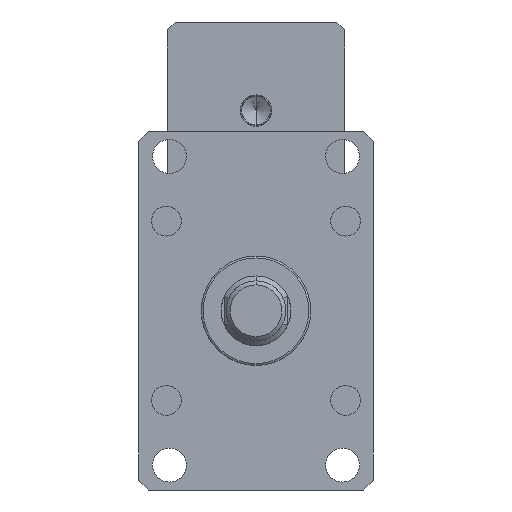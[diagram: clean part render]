
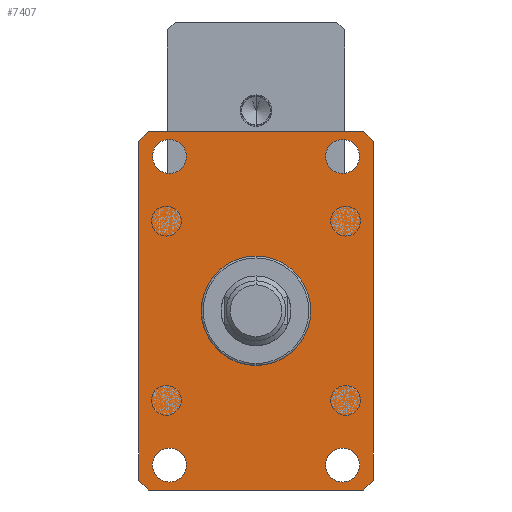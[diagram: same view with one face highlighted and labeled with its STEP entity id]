
A CAD part, front view. The second image highlights one B-rep face of the part: STEP entity #7407.
In plain terms, the highlighted planar face has unit normal (0, -1, 0).
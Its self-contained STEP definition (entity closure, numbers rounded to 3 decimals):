
#321 = CARTESIAN_POINT ( 'NONE',  ( -43.5, -55., -77.5 ) ) ;
#341 = DIRECTION ( 'NONE',  ( -0.707, 0., -0.707 ) ) ;
#351 = DIRECTION ( 'NONE',  ( 0.707, 0., 0.707 ) ) ;
#395 = DIRECTION ( 'NONE',  ( -1., 0., 0. ) ) ;
#535 = CARTESIAN_POINT ( 'NONE',  ( -43.5, -55., 77.5 ) ) ;
#645 = DIRECTION ( 'NONE',  ( 0., 0., 1. ) ) ;
#714 = DIRECTION ( 'NONE',  ( 0., 0., 1. ) ) ;
#838 = VERTEX_POINT ( 'NONE', #897 ) ;
#897 = CARTESIAN_POINT ( 'NONE',  ( -54., -55., -90. ) ) ;
#1011 = VECTOR ( 'NONE', #1719, 1000. ) ;
#1015 = ORIENTED_EDGE ( 'NONE', *, *, #8523, .T. ) ;
#1031 = EDGE_LOOP ( 'NONE', ( #2092, #10138 ) ) ;
#1140 = EDGE_CURVE ( 'NONE', #6532, #10853, #11142, .T. ) ;
#1181 = ORIENTED_EDGE ( 'NONE', *, *, #8317, .T. ) ;
#1294 = DIRECTION ( 'NONE',  ( 0., 0., 1. ) ) ;
#1336 = VERTEX_POINT ( 'NONE', #5708 ) ;
#1360 = DIRECTION ( 'NONE',  ( 0., 0., -1. ) ) ;
#1432 = CARTESIAN_POINT ( 'NONE',  ( 43.5, -55., -69. ) ) ;
#1519 = DIRECTION ( 'NONE',  ( 0., 0., -1. ) ) ;
#1523 = LINE ( 'NONE', #4280, #11560 ) ;
#1577 = VERTEX_POINT ( 'NONE', #10946 ) ;
#1608 = EDGE_CURVE ( 'NONE', #1577, #8759, #1523, .T. ) ;
#1681 = CARTESIAN_POINT ( 'NONE',  ( 43.5, -55., 77.5 ) ) ;
#1699 = CARTESIAN_POINT ( 'NONE',  ( 43.5, -55., -77.5 ) ) ;
#1719 = DIRECTION ( 'NONE',  ( 1., 0., 0. ) ) ;
#1945 = PLANE ( 'NONE',  #3823 ) ;
#2061 = DIRECTION ( 'NONE',  ( 0., -1., 0. ) ) ;
#2092 = ORIENTED_EDGE ( 'NONE', *, *, #9318, .F. ) ;
#2257 = VECTOR ( 'NONE', #7416, 1000. ) ;
#2695 = DIRECTION ( 'NONE',  ( 0., 0., 1. ) ) ;
#2706 = CIRCLE ( 'NONE', #5407, 8.5 ) ;
#2878 = VECTOR ( 'NONE', #11864, 1000. ) ;
#2884 = CARTESIAN_POINT ( 'NONE',  ( 59., -55., 90. ) ) ;
#2921 = AXIS2_PLACEMENT_3D ( 'NONE', #7950, #2061, #8898 ) ;
#2993 = EDGE_CURVE ( 'NONE', #6468, #10698, #2706, .T. ) ;
#3255 = EDGE_CURVE ( 'NONE', #11773, #4118, #5196, .T. ) ;
#3438 = VERTEX_POINT ( 'NONE', #8338 ) ;
#3509 = CIRCLE ( 'NONE', #4765, 8.5 ) ;
#3603 = ORIENTED_EDGE ( 'NONE', *, *, #1608, .T. ) ;
#3604 = DIRECTION ( 'NONE',  ( 0., -1., 0. ) ) ;
#3667 = VECTOR ( 'NONE', #645, 1000. ) ;
#3798 = CARTESIAN_POINT ( 'NONE',  ( 43.5, -55., 69. ) ) ;
#3806 = ORIENTED_EDGE ( 'NONE', *, *, #8588, .T. ) ;
#3823 = AXIS2_PLACEMENT_3D ( 'NONE', #2884, #4959, #11655 ) ;
#3864 = ORIENTED_EDGE ( 'NONE', *, *, #8843, .T. ) ;
#3883 = FACE_BOUND ( 'NONE', #4713, .T. ) ;
#3898 = CARTESIAN_POINT ( 'NONE',  ( 54., -55., 90. ) ) ;
#4039 = DIRECTION ( 'NONE',  ( 0., 1., 0. ) ) ;
#4118 = VERTEX_POINT ( 'NONE', #1432 ) ;
#4125 = CIRCLE ( 'NONE', #2921, 8.5 ) ;
#4280 = CARTESIAN_POINT ( 'NONE',  ( -59., -55., 85. ) ) ;
#4332 = AXIS2_PLACEMENT_3D ( 'NONE', #12312, #6632, #714 ) ;
#4355 = CARTESIAN_POINT ( 'NONE',  ( 59., -55., -85. ) ) ;
#4713 = EDGE_LOOP ( 'NONE', ( #6708, #10208 ) ) ;
#4765 = AXIS2_PLACEMENT_3D ( 'NONE', #9837, #4039, #10797 ) ;
#4769 = CIRCLE ( 'NONE', #4332, 8.5 ) ;
#4959 = DIRECTION ( 'NONE',  ( 0., 1., 0. ) ) ;
#5196 = CIRCLE ( 'NONE', #6479, 8.5 ) ;
#5219 = CARTESIAN_POINT ( 'NONE',  ( -59., -55., 85. ) ) ;
#5290 = CARTESIAN_POINT ( 'NONE',  ( 59., -55., -85. ) ) ;
#5369 = VECTOR ( 'NONE', #5727, 1000. ) ;
#5407 = AXIS2_PLACEMENT_3D ( 'NONE', #321, #7217, #1294 ) ;
#5652 = ORIENTED_EDGE ( 'NONE', *, *, #8783, .T. ) ;
#5708 = CARTESIAN_POINT ( 'NONE',  ( -59., -55., -85. ) ) ;
#5727 = DIRECTION ( 'NONE',  ( 0.707, 0., -0.707 ) ) ;
#5804 = ORIENTED_EDGE ( 'NONE', *, *, #2993, .T. ) ;
#5946 = VERTEX_POINT ( 'NONE', #7735 ) ;
#6012 = AXIS2_PLACEMENT_3D ( 'NONE', #9429, #3604, #10386 ) ;
#6317 = EDGE_LOOP ( 'NONE', ( #1015, #5804 ) ) ;
#6435 = ORIENTED_EDGE ( 'NONE', *, *, #8678, .T. ) ;
#6452 = CARTESIAN_POINT ( 'NONE',  ( 54., -55., 90. ) ) ;
#6468 = VERTEX_POINT ( 'NONE', #10293 ) ;
#6479 = AXIS2_PLACEMENT_3D ( 'NONE', #1699, #8562, #2695 ) ;
#6503 = FACE_OUTER_BOUND ( 'NONE', #12348, .T. ) ;
#6532 = VERTEX_POINT ( 'NONE', #9557 ) ;
#6632 = DIRECTION ( 'NONE',  ( 0., 1., 0. ) ) ;
#6708 = ORIENTED_EDGE ( 'NONE', *, *, #1140, .F. ) ;
#6797 = FACE_BOUND ( 'NONE', #1031, .T. ) ;
#7000 = ORIENTED_EDGE ( 'NONE', *, *, #8879, .T. ) ;
#7217 = DIRECTION ( 'NONE',  ( 0., 1., 0. ) ) ;
#7263 = DIRECTION ( 'NONE',  ( 0., -1., 0. ) ) ;
#7276 = CARTESIAN_POINT ( 'NONE',  ( -54., -55., 90. ) ) ;
#7383 = VERTEX_POINT ( 'NONE', #3898 ) ;
#7407 = ADVANCED_FACE ( 'NONE', ( #6797, #11570, #9037, #6503, #3883 ), #1945, .F. ) ;
#7416 = DIRECTION ( 'NONE',  ( -0.707, 0., 0.707 ) ) ;
#7428 = DIRECTION ( 'NONE',  ( 0., -1., 0. ) ) ;
#7505 = VECTOR ( 'NONE', #395, 1000. ) ;
#7578 = AXIS2_PLACEMENT_3D ( 'NONE', #1681, #7263, #1360 ) ;
#7622 = CARTESIAN_POINT ( 'NONE',  ( -54., -55., -90. ) ) ;
#7735 = CARTESIAN_POINT ( 'NONE',  ( 59., -55., 85. ) ) ;
#7787 = VECTOR ( 'NONE', #351, 1000. ) ;
#7948 = LINE ( 'NONE', #9539, #5369 ) ;
#7950 = CARTESIAN_POINT ( 'NONE',  ( 43.5, -55., 77.5 ) ) ;
#8008 = CARTESIAN_POINT ( 'NONE',  ( 43.5, -55., -86. ) ) ;
#8202 = EDGE_CURVE ( 'NONE', #10274, #10378, #10490, .T. ) ;
#8251 = LINE ( 'NONE', #7622, #1011 ) ;
#8317 = EDGE_CURVE ( 'NONE', #4118, #11773, #4769, .T. ) ;
#8338 = CARTESIAN_POINT ( 'NONE',  ( 54., -55., -90. ) ) ;
#8409 = LINE ( 'NONE', #5219, #2878 ) ;
#8523 = EDGE_CURVE ( 'NONE', #10698, #6468, #3509, .T. ) ;
#8562 = DIRECTION ( 'NONE',  ( 0., 1., 0. ) ) ;
#8588 = EDGE_CURVE ( 'NONE', #8759, #1336, #8409, .T. ) ;
#8658 = EDGE_CURVE ( 'NONE', #7383, #1577, #12252, .T. ) ;
#8678 = EDGE_CURVE ( 'NONE', #5946, #7383, #11961, .T. ) ;
#8759 = VERTEX_POINT ( 'NONE', #12176 ) ;
#8783 = EDGE_CURVE ( 'NONE', #9270, #5946, #11371, .T. ) ;
#8843 = EDGE_CURVE ( 'NONE', #838, #3438, #8251, .T. ) ;
#8879 = EDGE_CURVE ( 'NONE', #1336, #838, #7948, .T. ) ;
#8898 = DIRECTION ( 'NONE',  ( 0., 0., -1. ) ) ;
#9037 = FACE_BOUND ( 'NONE', #6317, .T. ) ;
#9054 = EDGE_CURVE ( 'NONE', #10853, #6532, #4125, .T. ) ;
#9270 = VERTEX_POINT ( 'NONE', #4355 ) ;
#9318 = EDGE_CURVE ( 'NONE', #10378, #10274, #11658, .T. ) ;
#9429 = CARTESIAN_POINT ( 'NONE',  ( -43.5, -55., 77.5 ) ) ;
#9539 = CARTESIAN_POINT ( 'NONE',  ( -59., -55., -85. ) ) ;
#9552 = EDGE_LOOP ( 'NONE', ( #1181, #12338 ) ) ;
#9557 = CARTESIAN_POINT ( 'NONE',  ( 43.5, -55., 86. ) ) ;
#9748 = EDGE_CURVE ( 'NONE', #3438, #9270, #10306, .T. ) ;
#9837 = CARTESIAN_POINT ( 'NONE',  ( -43.5, -55., -77.5 ) ) ;
#9861 = CARTESIAN_POINT ( 'NONE',  ( -43.5, -55., 86. ) ) ;
#10138 = ORIENTED_EDGE ( 'NONE', *, *, #8202, .F. ) ;
#10208 = ORIENTED_EDGE ( 'NONE', *, *, #9054, .F. ) ;
#10274 = VERTEX_POINT ( 'NONE', #11653 ) ;
#10293 = CARTESIAN_POINT ( 'NONE',  ( -43.5, -55., -86. ) ) ;
#10306 = LINE ( 'NONE', #5290, #7787 ) ;
#10378 = VERTEX_POINT ( 'NONE', #9861 ) ;
#10386 = DIRECTION ( 'NONE',  ( 0., 0., -1. ) ) ;
#10404 = AXIS2_PLACEMENT_3D ( 'NONE', #535, #7428, #1519 ) ;
#10490 = CIRCLE ( 'NONE', #10404, 8.5 ) ;
#10698 = VERTEX_POINT ( 'NONE', #12167 ) ;
#10797 = DIRECTION ( 'NONE',  ( 0., 0., 1. ) ) ;
#10843 = ORIENTED_EDGE ( 'NONE', *, *, #9748, .T. ) ;
#10853 = VERTEX_POINT ( 'NONE', #3798 ) ;
#10946 = CARTESIAN_POINT ( 'NONE',  ( -54., -55., 90. ) ) ;
#11142 = CIRCLE ( 'NONE', #7578, 8.5 ) ;
#11371 = LINE ( 'NONE', #12264, #3667 ) ;
#11560 = VECTOR ( 'NONE', #341, 1000. ) ;
#11570 = FACE_BOUND ( 'NONE', #9552, .T. ) ;
#11653 = CARTESIAN_POINT ( 'NONE',  ( -43.5, -55., 69. ) ) ;
#11655 = DIRECTION ( 'NONE',  ( 0., 0., 1. ) ) ;
#11658 = CIRCLE ( 'NONE', #6012, 8.5 ) ;
#11734 = ORIENTED_EDGE ( 'NONE', *, *, #8658, .T. ) ;
#11773 = VERTEX_POINT ( 'NONE', #8008 ) ;
#11864 = DIRECTION ( 'NONE',  ( 0., 0., -1. ) ) ;
#11961 = LINE ( 'NONE', #6452, #2257 ) ;
#12167 = CARTESIAN_POINT ( 'NONE',  ( -43.5, -55., -69. ) ) ;
#12176 = CARTESIAN_POINT ( 'NONE',  ( -59., -55., 85. ) ) ;
#12252 = LINE ( 'NONE', #7276, #7505 ) ;
#12264 = CARTESIAN_POINT ( 'NONE',  ( 59., -55., 85. ) ) ;
#12312 = CARTESIAN_POINT ( 'NONE',  ( 43.5, -55., -77.5 ) ) ;
#12338 = ORIENTED_EDGE ( 'NONE', *, *, #3255, .T. ) ;
#12348 = EDGE_LOOP ( 'NONE', ( #11734, #3603, #3806, #7000, #3864, #10843, #5652, #6435 ) ) ;
